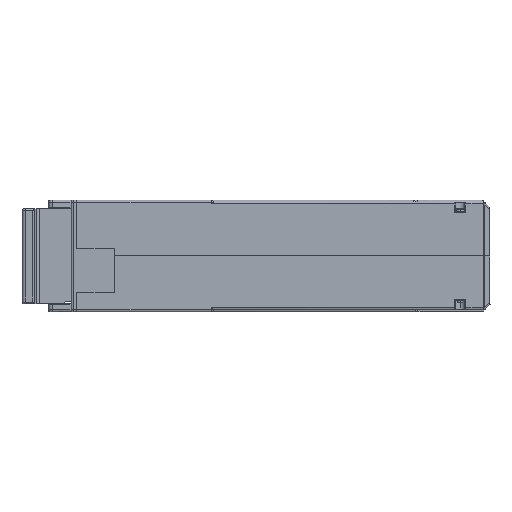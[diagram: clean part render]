
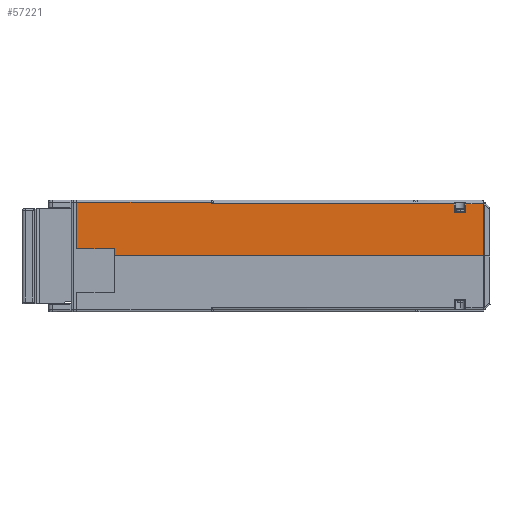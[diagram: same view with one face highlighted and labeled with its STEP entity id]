
A CAD part, left-side view. The second image highlights one B-rep face of the part: STEP entity #57221.
In plain terms, the highlighted planar face has unit normal (-1, 0, 0) as drawn and (1, 0, 0) by its records, which use the part's own axes.
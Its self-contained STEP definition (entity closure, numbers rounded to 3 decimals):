
#2167 = VERTEX_POINT ( 'NONE', #89164 ) ;
#2355 = CARTESIAN_POINT ( 'NONE',  ( 20., 50.45, -4.9 ) ) ;
#2605 = DIRECTION ( 'NONE',  ( 0., 0., -1. ) ) ;
#3099 = VERTEX_POINT ( 'NONE', #32969 ) ;
#3409 = VECTOR ( 'NONE', #13468, 1000. ) ;
#4621 = LINE ( 'NONE', #53621, #39229 ) ;
#6555 = EDGE_CURVE ( 'NONE', #3099, #61611, #85532, .T. ) ;
#7259 = EDGE_CURVE ( 'NONE', #61611, #66182, #4621, .T. ) ;
#8229 = CARTESIAN_POINT ( 'NONE',  ( 20., -40.5, -9. ) ) ;
#8430 = ORIENTED_EDGE ( 'NONE', *, *, #93549, .T. ) ;
#8636 = DIRECTION ( 'NONE',  ( 0., -1., 0. ) ) ;
#8644 = LINE ( 'NONE', #90640, #89536 ) ;
#8773 = ORIENTED_EDGE ( 'NONE', *, *, #46533, .T. ) ;
#9348 = CARTESIAN_POINT ( 'NONE',  ( 20., -48.293, -9. ) ) ;
#9545 = LINE ( 'NONE', #58720, #34960 ) ;
#10414 = LINE ( 'NONE', #18420, #47380 ) ;
#10634 = VERTEX_POINT ( 'NONE', #41037 ) ;
#12282 = VERTEX_POINT ( 'NONE', #8229 ) ;
#13290 = EDGE_CURVE ( 'NONE', #47383, #2167, #10414, .T. ) ;
#13468 = DIRECTION ( 'NONE',  ( 0., -1., 0. ) ) ;
#14211 = EDGE_CURVE ( 'NONE', #28951, #12282, #8644, .T. ) ;
#14231 = ORIENTED_EDGE ( 'NONE', *, *, #6555, .T. ) ;
#15271 = CARTESIAN_POINT ( 'NONE',  ( 20., 50., -9. ) ) ;
#17339 = DIRECTION ( 'NONE',  ( 0., 0., -1. ) ) ;
#18420 = CARTESIAN_POINT ( 'NONE',  ( 20., -50., -9.5 ) ) ;
#19253 = ORIENTED_EDGE ( 'NONE', *, *, #13290, .F. ) ;
#23110 = CARTESIAN_POINT ( 'NONE',  ( 20., -43.5, -9. ) ) ;
#23335 = DIRECTION ( 'NONE',  ( 0., 0., 1. ) ) ;
#23410 = EDGE_CURVE ( 'NONE', #39999, #3099, #77865, .T. ) ;
#24942 = VECTOR ( 'NONE', #60421, 1000. ) ;
#26171 = AXIS2_PLACEMENT_3D ( 'NONE', #51334, #72927, #43304 ) ;
#26861 = CARTESIAN_POINT ( 'NONE',  ( 20., -50., 4.9 ) ) ;
#27463 = EDGE_LOOP ( 'NONE', ( #40536, #55474, #8773, #61256, #19253, #90670, #8430, #80198, #14231, #37595, #35099, #73985 ) ) ;
#27825 = DIRECTION ( 'NONE',  ( 0., -1., 0. ) ) ;
#27934 = VECTOR ( 'NONE', #70764, 1000. ) ;
#28951 = VERTEX_POINT ( 'NONE', #47731 ) ;
#32969 = CARTESIAN_POINT ( 'NONE',  ( 20., 50.45, 4.9 ) ) ;
#34960 = VECTOR ( 'NONE', #82237, 1000. ) ;
#35099 = ORIENTED_EDGE ( 'NONE', *, *, #75385, .T. ) ;
#37583 = LINE ( 'NONE', #15271, #56068 ) ;
#37595 = ORIENTED_EDGE ( 'NONE', *, *, #7259, .T. ) ;
#37915 = VECTOR ( 'NONE', #23335, 1000. ) ;
#39229 = VECTOR ( 'NONE', #2605, 1000. ) ;
#39999 = VERTEX_POINT ( 'NONE', #89114 ) ;
#40536 = ORIENTED_EDGE ( 'NONE', *, *, #59205, .T. ) ;
#41037 = CARTESIAN_POINT ( 'NONE',  ( 20., 24.5, -9. ) ) ;
#41492 = LINE ( 'NONE', #64765, #3409 ) ;
#41763 = LINE ( 'NONE', #56544, #27934 ) ;
#42932 = EDGE_CURVE ( 'NONE', #47383, #55280, #50592, .T. ) ;
#43304 = DIRECTION ( 'NONE',  ( 0., 0., 1. ) ) ;
#44375 = EDGE_CURVE ( 'NONE', #10634, #2167, #64180, .T. ) ;
#44649 = DIRECTION ( 'NONE',  ( 0., 1., 0. ) ) ;
#45488 = CARTESIAN_POINT ( 'NONE',  ( 20., 60.45, -9.5 ) ) ;
#46533 = EDGE_CURVE ( 'NONE', #12282, #10634, #41763, .T. ) ;
#47380 = VECTOR ( 'NONE', #8636, 1000. ) ;
#47383 = VERTEX_POINT ( 'NONE', #45488 ) ;
#47731 = CARTESIAN_POINT ( 'NONE',  ( 20., -40.5, -6.7 ) ) ;
#49689 = VERTEX_POINT ( 'NONE', #23110 ) ;
#50592 = LINE ( 'NONE', #67504, #37915 ) ;
#51334 = CARTESIAN_POINT ( 'NONE',  ( 20., 50., -4.9 ) ) ;
#53621 = CARTESIAN_POINT ( 'NONE',  ( 20., -48.293, -4.9 ) ) ;
#53890 = CARTESIAN_POINT ( 'NONE',  ( 20., -48.293, 4.9 ) ) ;
#55280 = VERTEX_POINT ( 'NONE', #60246 ) ;
#55474 = ORIENTED_EDGE ( 'NONE', *, *, #14211, .T. ) ;
#56068 = VECTOR ( 'NONE', #44649, 1000. ) ;
#56544 = CARTESIAN_POINT ( 'NONE',  ( 20., 50., -9. ) ) ;
#57221 = ADVANCED_FACE ( 'NONE', ( #89679 ), #88485, .T. ) ;
#58720 = CARTESIAN_POINT ( 'NONE',  ( 20., 50., -6.7 ) ) ;
#59205 = EDGE_CURVE ( 'NONE', #64782, #28951, #9545, .T. ) ;
#60246 = CARTESIAN_POINT ( 'NONE',  ( 20., 60.45, 2.9 ) ) ;
#60421 = DIRECTION ( 'NONE',  ( 0., 0., -1. ) ) ;
#60742 = CARTESIAN_POINT ( 'NONE',  ( 20., 24.5, -4.9 ) ) ;
#61256 = ORIENTED_EDGE ( 'NONE', *, *, #44375, .T. ) ;
#61611 = VERTEX_POINT ( 'NONE', #53890 ) ;
#64180 = LINE ( 'NONE', #60742, #24942 ) ;
#64765 = CARTESIAN_POINT ( 'NONE',  ( 20., 50., 2.9 ) ) ;
#64782 = VERTEX_POINT ( 'NONE', #75024 ) ;
#65068 = EDGE_CURVE ( 'NONE', #49689, #64782, #90153, .T. ) ;
#65208 = VECTOR ( 'NONE', #76534, 1000. ) ;
#66182 = VERTEX_POINT ( 'NONE', #9348 ) ;
#67211 = CARTESIAN_POINT ( 'NONE',  ( 20., -43.5, -6.9 ) ) ;
#67504 = CARTESIAN_POINT ( 'NONE',  ( 20., 60.45, 8.195 ) ) ;
#70764 = DIRECTION ( 'NONE',  ( 0., 1., 0. ) ) ;
#72927 = DIRECTION ( 'NONE',  ( 1., 0., 0. ) ) ;
#73985 = ORIENTED_EDGE ( 'NONE', *, *, #65068, .T. ) ;
#75024 = CARTESIAN_POINT ( 'NONE',  ( 20., -43.5, -6.7 ) ) ;
#75385 = EDGE_CURVE ( 'NONE', #66182, #49689, #37583, .T. ) ;
#76193 = DIRECTION ( 'NONE',  ( 0., 0., 1. ) ) ;
#76534 = DIRECTION ( 'NONE',  ( 0., 0., 1. ) ) ;
#77865 = LINE ( 'NONE', #2355, #65208 ) ;
#80198 = ORIENTED_EDGE ( 'NONE', *, *, #23410, .T. ) ;
#80877 = VECTOR ( 'NONE', #27825, 1000. ) ;
#82237 = DIRECTION ( 'NONE',  ( 0., 1., 0. ) ) ;
#85532 = LINE ( 'NONE', #26861, #80877 ) ;
#88485 = PLANE ( 'NONE',  #26171 ) ;
#89114 = CARTESIAN_POINT ( 'NONE',  ( 20., 50.45, 2.9 ) ) ;
#89164 = CARTESIAN_POINT ( 'NONE',  ( 20., 24.5, -9.5 ) ) ;
#89536 = VECTOR ( 'NONE', #17339, 1000. ) ;
#89679 = FACE_OUTER_BOUND ( 'NONE', #27463, .T. ) ;
#90153 = LINE ( 'NONE', #67211, #91238 ) ;
#90640 = CARTESIAN_POINT ( 'NONE',  ( 20., -40.5, -9. ) ) ;
#90670 = ORIENTED_EDGE ( 'NONE', *, *, #42932, .T. ) ;
#91238 = VECTOR ( 'NONE', #76193, 1000. ) ;
#93549 = EDGE_CURVE ( 'NONE', #55280, #39999, #41492, .T. ) ;
